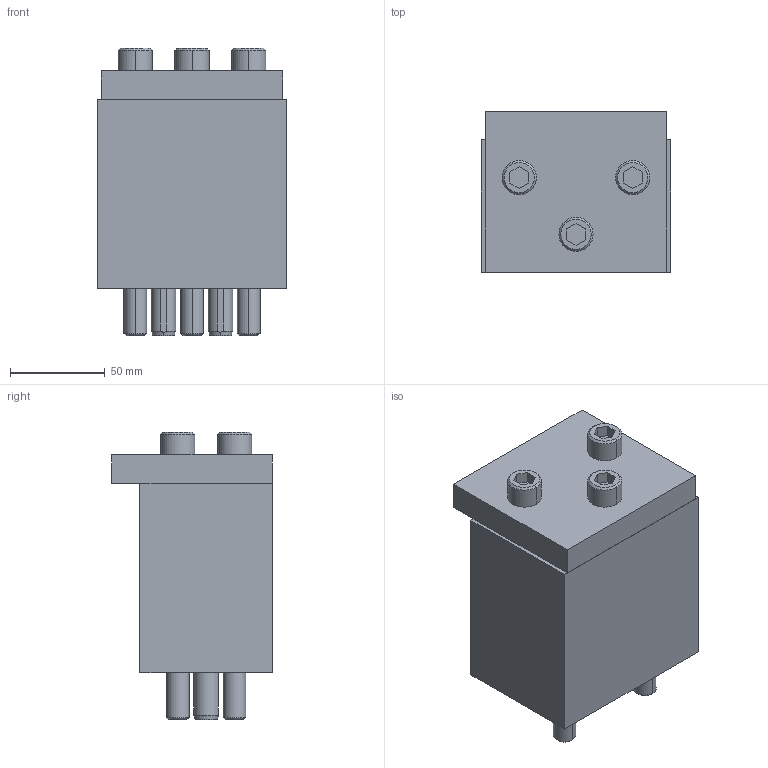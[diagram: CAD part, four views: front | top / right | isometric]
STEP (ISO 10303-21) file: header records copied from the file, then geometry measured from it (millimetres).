
FILE_DESCRIPTION((''),'2;1');
FILE_NAME('','2010-09-07T14:31:09+09:00',('misumi'),(''),'M/STEP i/f 1R2-14','CADmeister v5.1','');
FILE_SCHEMA(('AUTOMOTIVE_DESIGN'));
Length unit declared in the file: millimetre
Products named in the file (1): KEPN100-100-15
Bounding box: 100 x 85 x 152 mm (x, y, z)
Volume: 753925.8 mm3; surface area: 122951.3 mm2
Topology: 10 solids, 10 shells, 190 faces, 413 edges, 267 vertices
Faces by surface type: plane 90, cylinder 68, cone 32
Entity records: 5442 total; most frequent: DIRECTION 958, CARTESIAN_POINT 892, ORIENTED_EDGE 820, EDGE_CURVE 410, AXIS2_PLACEMENT_3D 362, VERTEX_POINT 264, LINE 234, VECTOR 234
